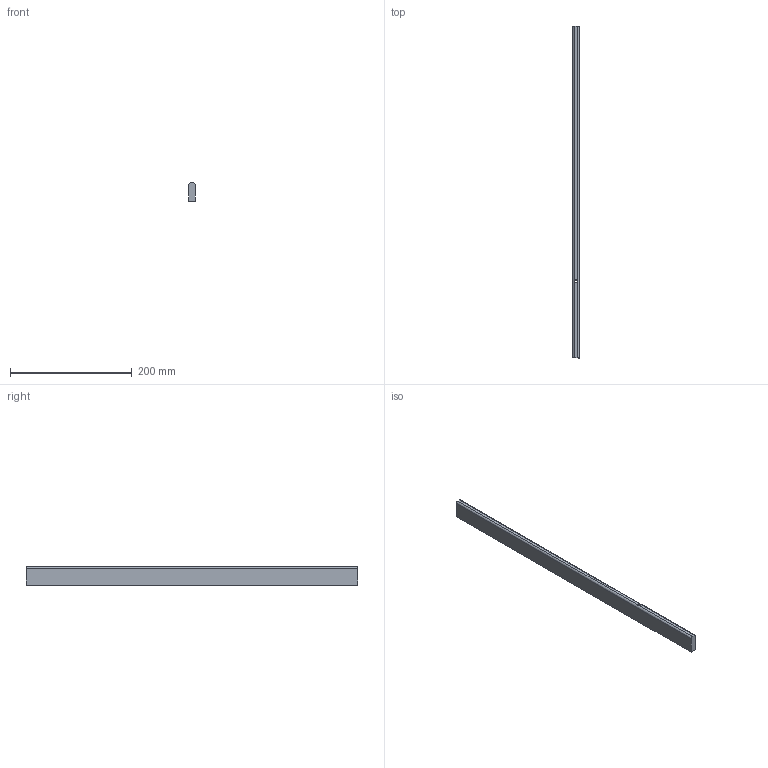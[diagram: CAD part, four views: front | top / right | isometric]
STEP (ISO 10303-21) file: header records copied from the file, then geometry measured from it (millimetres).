
FILE_DESCRIPTION (( 'STEP AP214' ), '1' );
FILE_NAME ('_Seitenreling_S760610200_RL545.step', '2010-09-06T14:51:47', ( 'grass' ), ( '' ), 'SwSTEP 2.0', 'SolidWorks 2010', '' );
FILE_SCHEMA (( 'AUTOMOTIVE_DESIGN' ));
Length unit declared in the file: millimetre
Products named in the file (1): _Seitenreling_S760610200_RL545
Bounding box: 10.5 x 545 x 30 mm (x, y, z)
Volume: 168650.7 mm3; surface area: 43902.2 mm2
Topology: 1 solids, 1 shells, 14 faces, 34 edges, 22 vertices
Faces by surface type: plane 8, cylinder 6
Entity records: 454 total; most frequent: DIRECTION 78, CARTESIAN_POINT 71, ORIENTED_EDGE 68, EDGE_CURVE 34, AXIS2_PLACEMENT_3D 29, VERTEX_POINT 22, VECTOR 20, LINE 20
